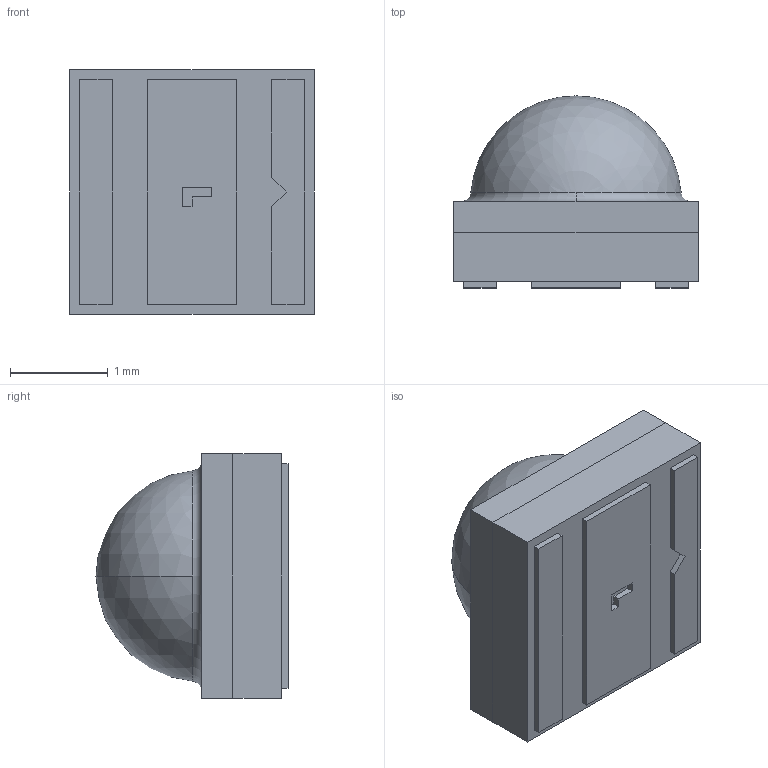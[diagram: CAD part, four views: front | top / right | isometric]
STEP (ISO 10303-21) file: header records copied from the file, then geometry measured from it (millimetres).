
FILE_DESCRIPTION (( 'STEP AP203' ), '1' );
FILE_NAME ('BD.STEP', '2024-01-19T03:46:18', ( '' ), ( '' ), 'SwSTEP 2.0', 'SolidWorks 2016', '' );
FILE_SCHEMA (( 'CONFIG_CONTROL_DESIGN' ));
Length unit declared in the file: millimetre
Products named in the file (1): BD
Bounding box: 2.5 x 1.97 x 2.5 mm (x, y, z)
Volume: 8 mm3; surface area: 37.8 mm2
Topology: 2 solids, 2 shells, 41 faces, 97 edges, 65 vertices
Faces by surface type: plane 37, torus 2, sphere 2
Entity records: 1244 total; most frequent: CARTESIAN_POINT 204, ORIENTED_EDGE 194, DIRECTION 191, EDGE_CURVE 97, VECTOR 87, LINE 87, VERTEX_POINT 65, AXIS2_PLACEMENT_3D 52
